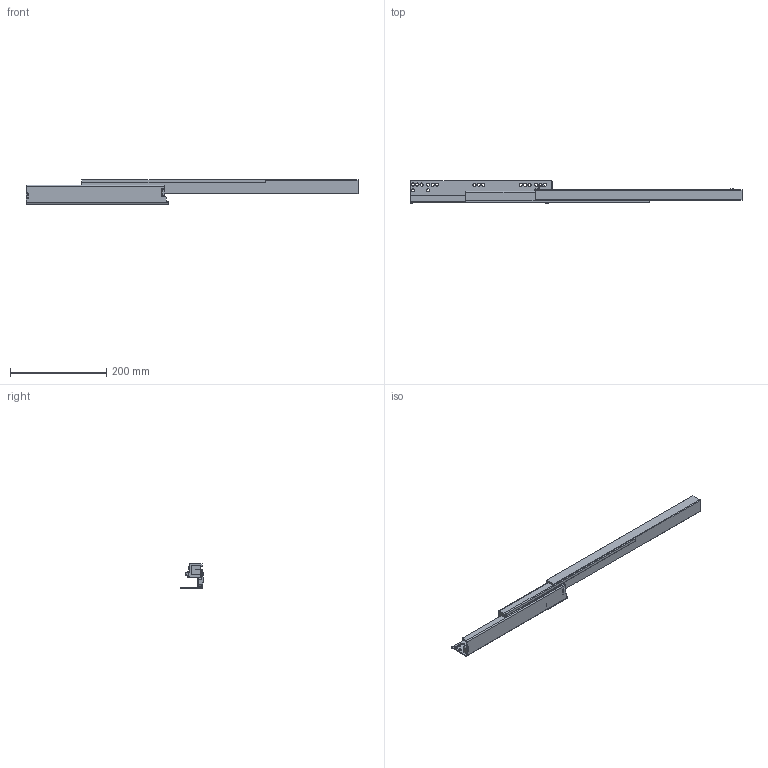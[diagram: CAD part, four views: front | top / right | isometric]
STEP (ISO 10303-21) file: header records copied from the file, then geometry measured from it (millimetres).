
FILE_DESCRIPTION (( 'STEP AP203' ), '1' );
FILE_NAME ('HT104504H-R(´ò¿ª).STEP', '2021-07-31T01:25:45', ( 'Users' ), ( 'Microsoft' ), 'SwSTEP 2.0', 'SolidWorks 2018', '' );
FILE_SCHEMA (( 'CONFIG_CONTROL_DESIGN' ));
Length unit declared in the file: millimetre
Products named in the file (1): HT104504H-R(湖羲)
Bounding box: 689.3 x 47.5 x 51.73 mm (x, y, z)
Volume: 419106.8 mm3; surface area: 116520.6 mm2
Topology: 1 solids, 2 shells, 224 faces, 591 edges, 371 vertices
Faces by surface type: cylinder 97, plane 73, cone 40, torus 12, sphere 2
Entity records: 7082 total; most frequent: DIRECTION 1288, CARTESIAN_POINT 1200, ORIENTED_EDGE 1178, EDGE_CURVE 589, AXIS2_PLACEMENT_3D 479, VERTEX_POINT 371, VECTOR 330, LINE 330
